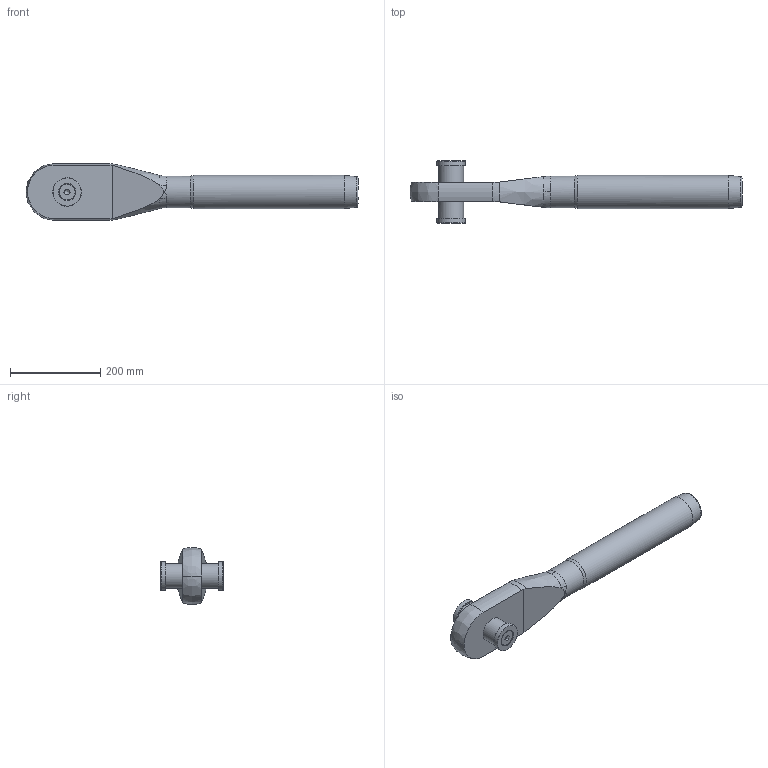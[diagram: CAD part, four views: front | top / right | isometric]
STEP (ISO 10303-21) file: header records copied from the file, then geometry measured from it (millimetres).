
FILE_DESCRIPTION(/* description */ (''),/* implementation_level */ '2;1');
FILE_NAME(/* name */ 'MCC 40_42CrMo4',/* time_stamp */ '2023-05-23T15:41:08+02:00',/* author */ (''),/* organization */ (''),/* preprocessor_version */ 'ST-DEVELOPER v16.5',/* originating_system */ 'Rhino 7.22',/* authorisation */ '');
FILE_SCHEMA (('CONFIG_CONTROL_DESIGN'));
Length unit declared in the file: millimetre
Products named in the file (1): Document
Bounding box: 735 x 137.87 x 125.99 mm (x, y, z)
Volume: 3507017.2 mm3; surface area: 249904.2 mm2
Topology: 6 solids, 6 shells, 74 faces, 203 edges, 135 vertices
Faces by surface type: bspline 31, plane 27, cylinder 16
Full cylindrical faces by diameter (mm): 17.294 x2, 20 x2, 21 x2, 35.4 x2, 55 x1, 56 x1, 63 x2, 70 x1, 73.5 x1
Entity records: 3250 total; most frequent: CARTESIAN_POINT 1995, ORIENTED_EDGE 386, EDGE_CURVE 193, VERTEX_POINT 135, EDGE_LOOP 84, ADVANCED_FACE 74, FACE_OUTER_BOUND 74, B_SPLINE_CURVE_WITH_KNOTS 64
